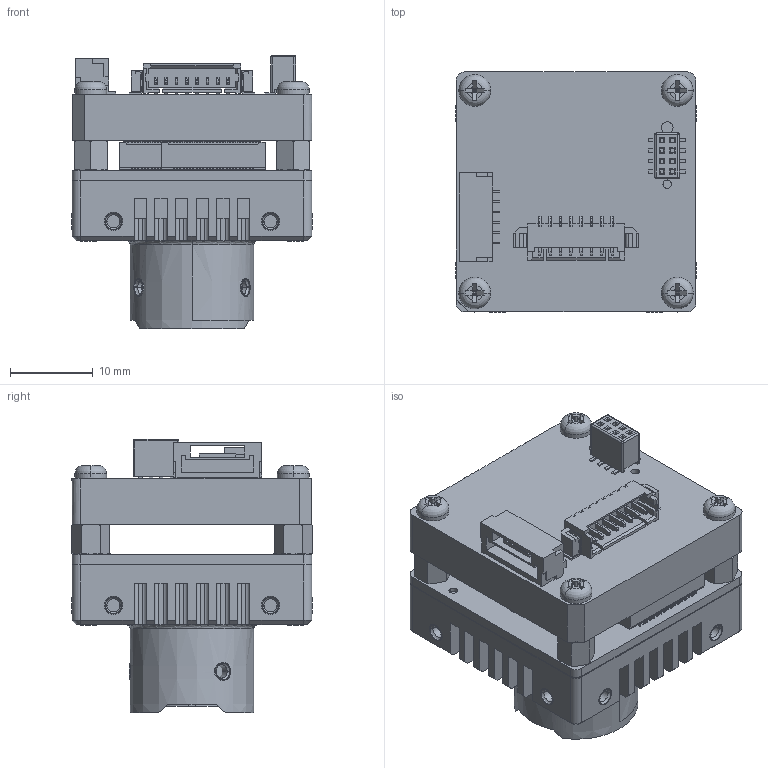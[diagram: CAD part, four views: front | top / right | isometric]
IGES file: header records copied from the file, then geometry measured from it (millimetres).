
Start section:  PTC IGES file: 2.igs
Global section: file name: 2.igs; native system: Creo Parametric by PTC Inc.; preprocessor: 2017260; author: fangguihua; organization: Unknown; date: 20210126.150037; units: millimetre
Bounding box: 29.14 x 29.14 x 33.1 mm (x, y, z)
Volume: 10372.1 mm3; surface area: 14596.1 mm2
Topology: 1 solids, 49 shells, 5663 faces, 17559 edges, 12284 vertices
Faces by surface type: bspline 3650, revolution 2013
